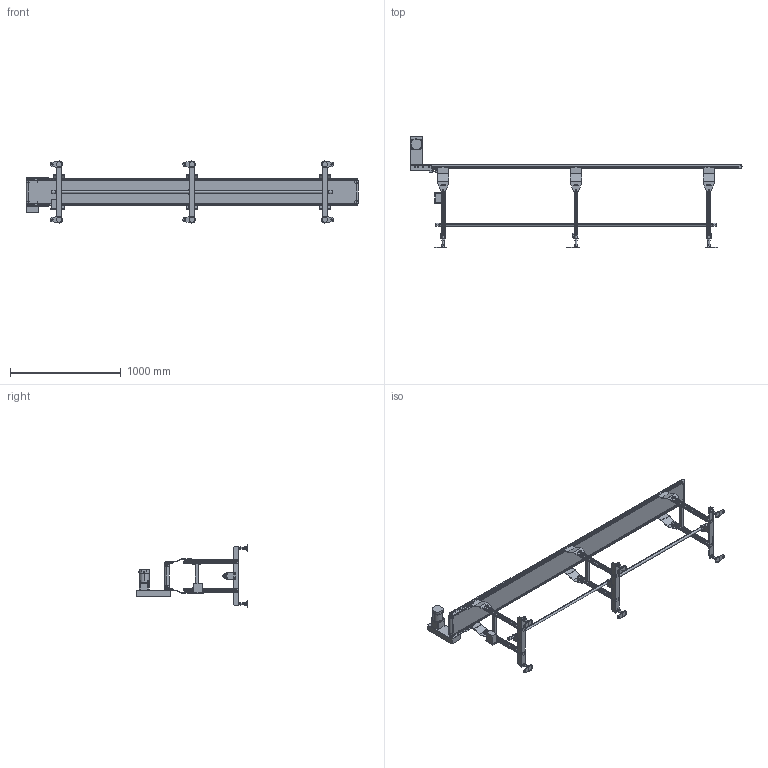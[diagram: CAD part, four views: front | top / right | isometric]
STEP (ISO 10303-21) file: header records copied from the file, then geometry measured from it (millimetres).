
FILE_DESCRIPTION (( 'STEP AP214' ), '1' );
FILE_NAME ('MB20-OD-200-3000-R.STEP', '2024-10-04T09:24:10', ( '' ), ( '' ), 'SwSTEP 2.0', 'SolidWorks 2017', '' );
FILE_SCHEMA (( 'AUTOMOTIVE_DESIGN' ));
Length unit declared in the file: millimetre
Products named in the file (1): MB20-OD-200-3000-R
Bounding box: 3001.5 x 1011.5 x 560.98 mm (x, y, z)
Volume: 14819018.9 mm3; surface area: 6904824.5 mm2
Topology: 52 solids, 52 shells, 2531 faces, 6359 edges, 4132 vertices
Faces by surface type: plane 1894, cylinder 544, cone 64, bspline 15, torus 14
Entity records: 76627 total; most frequent: CARTESIAN_POINT 13828, ORIENTED_EDGE 12710, DIRECTION 12682, EDGE_CURVE 6355, VECTOR 4984, LINE 4984, VERTEX_POINT 4132, AXIS2_PLACEMENT_3D 3849
